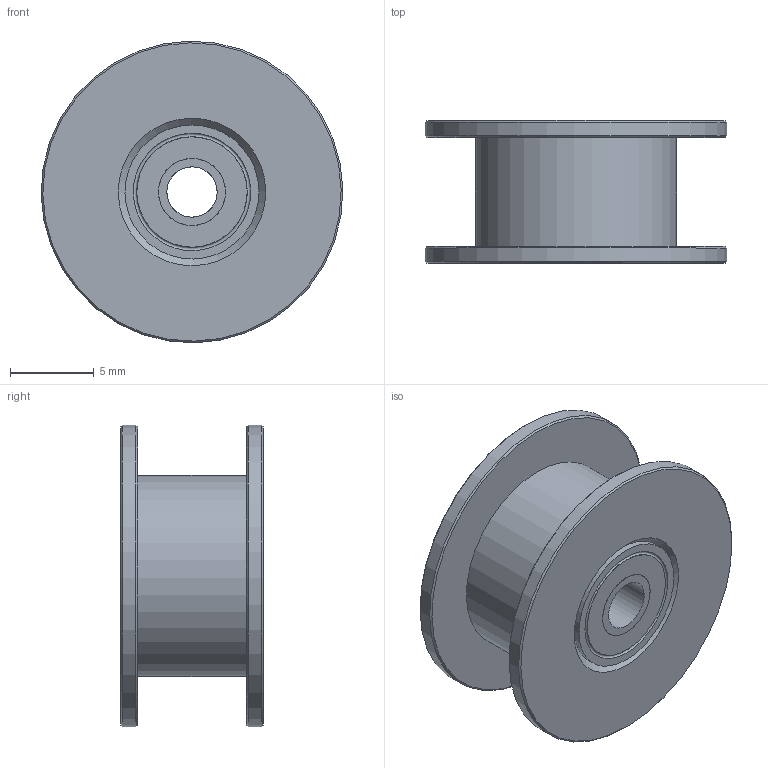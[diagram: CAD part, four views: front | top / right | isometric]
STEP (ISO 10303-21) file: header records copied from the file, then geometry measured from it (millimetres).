
FILE_DESCRIPTION(('FreeCAD Model'),'2;1');
FILE_NAME('Open CASCADE Shape Model','2021-05-05T09:14:47',('Author'),( ''),'Open CASCADE STEP processor 7.5','FreeCAD','Unknown');
FILE_SCHEMA(('AUTOMOTIVE_DESIGN { 1 0 10303 214 1 1 1 1 }'));
Length unit declared in the file: millimetre
Products named in the file (8): GT2 Idler Pulley, Configurable_20T W6 B3 Without T; Body, GT2 Idler Pulley, Configurable_20T W6 B3 Without T; Bearing Subassy, GT2 Idler Pulley, Configurable_3 mm Bore; Bearing Outer Ring, GT2 Idler Pulley, Configurable_3 mm Bore; Bearing Inner Ring, GT2 Idler Pulley, Configurable_3 mm Bore; Bearing Seal, GT2 Idler Pulley, Configurable_3 mm Bore; Bearing Ball, GT2 Idler Pulley, Configurable_2 mm; Bearing Subassy, GT2 Idler Pulley, Configurable_3 mm Bore001
Assembly tree (23 placements, depth 3):
  GT2 Idler Pulley, Configurable_20T W6 B3 Without T
    Body, GT2 Idler Pulley, Configurable_20T W6 B3 Without T
    Bearing Subassy, GT2 Idler Pulley, Configurable_3 mm Bore
      Bearing Outer Ring, GT2 Idler Pulley, Configurable_3 mm Bore
      Bearing Inner Ring, GT2 Idler Pulley, Configurable_3 mm Bore
      Bearing Seal, GT2 Idler Pulley, Configurable_3 mm Bore  x2
      Bearing Ball, GT2 Idler Pulley, Configurable_2 mm  x6
    Bearing Subassy, GT2 Idler Pulley, Configurable_3 mm Bore001
      Bearing Outer Ring, GT2 Idler Pulley, Configurable_3 mm Bore
      Bearing Inner Ring, GT2 Idler Pulley, Configurable_3 mm Bore
      Bearing Seal, GT2 Idler Pulley, Configurable_3 mm Bore  x2
      Bearing Ball, GT2 Idler Pulley, Configurable_2 mm  x6
Bounding box: 18 x 8.5 x 18 mm (x, y, z)
Volume: 1040.7 mm3; surface area: 2327.4 mm2
Topology: 21 solids, 21 shells, 78 faces, 157 edges, 101 vertices
Faces by surface type: cylinder 26, plane 22, torus 12, sphere 12, cone 6
Full cylindrical faces by diameter (mm): 3 x2, 4 x8, 7 x9, 8 x4, 12 x1, 18 x2
Entity records: 2318 total; most frequent: CARTESIAN_POINT 392, DIRECTION 335, ORIENTED_EDGE 134, PCURVE 134, DEFINITIONAL_REPRESENTATION 134, LINE 108, VECTOR 108, AXIS2_PLACEMENT_3D 104
